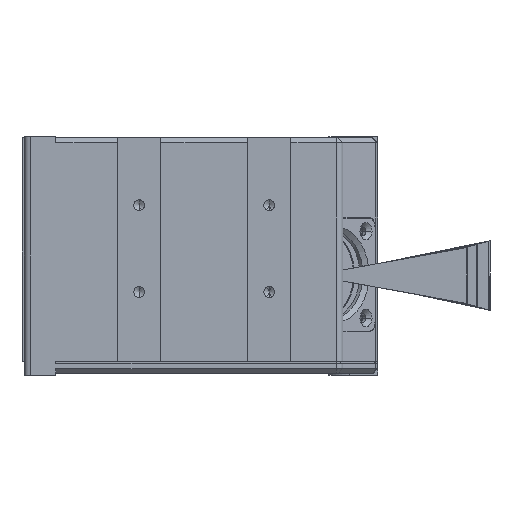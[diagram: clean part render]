
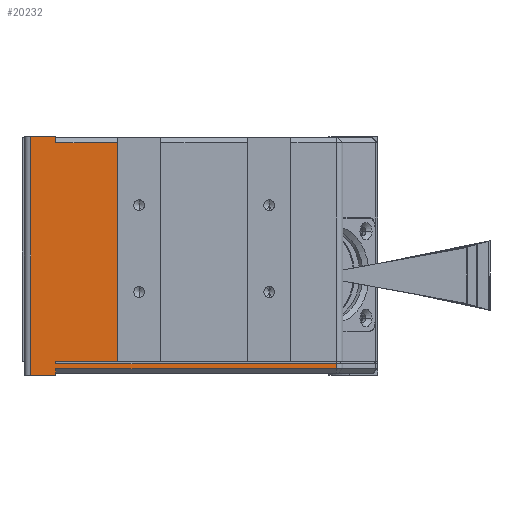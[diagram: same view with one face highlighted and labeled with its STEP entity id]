
A CAD part, left-side view. The second image highlights one B-rep face of the part: STEP entity #20232.
In plain terms, the highlighted planar face has unit normal (-1, 0, 0).
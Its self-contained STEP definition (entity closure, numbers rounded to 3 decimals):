
#26 = VERTEX_POINT ( 'NONE', #19500 ) ;
#117 = LINE ( 'NONE', #7400, #4333 ) ;
#307 = DIRECTION ( 'NONE',  ( 0., 1., 0. ) ) ;
#535 = ORIENTED_EDGE ( 'NONE', *, *, #11895, .T. ) ;
#1522 = DIRECTION ( 'NONE',  ( 0., -1., 0. ) ) ;
#1750 = FACE_OUTER_BOUND ( 'NONE', #11244, .T. ) ;
#1928 = VECTOR ( 'NONE', #8747, 1000. ) ;
#2029 = ORIENTED_EDGE ( 'NONE', *, *, #17420, .F. ) ;
#2722 = ORIENTED_EDGE ( 'NONE', *, *, #20369, .F. ) ;
#3089 = EDGE_CURVE ( 'NONE', #21305, #26122, #10974, .T. ) ;
#3321 = DIRECTION ( 'NONE',  ( 0., 1., 0. ) ) ;
#3551 = VERTEX_POINT ( 'NONE', #13375 ) ;
#3711 = ORIENTED_EDGE ( 'NONE', *, *, #21937, .F. ) ;
#4333 = VECTOR ( 'NONE', #19916, 1000. ) ;
#4411 = EDGE_CURVE ( 'NONE', #12964, #16821, #6359, .T. ) ;
#4582 = CARTESIAN_POINT ( 'NONE',  ( 0., 0., 51.8 ) ) ;
#4691 = LINE ( 'NONE', #26398, #13367 ) ;
#4738 = DIRECTION ( 'NONE',  ( 0., -1., 0. ) ) ;
#5207 = CARTESIAN_POINT ( 'NONE',  ( 0., 0., -3.2 ) ) ;
#5530 = CARTESIAN_POINT ( 'NONE',  ( 0., -7.3, 50.4 ) ) ;
#6026 = VECTOR ( 'NONE', #19273, 1000. ) ;
#6106 = CARTESIAN_POINT ( 'NONE',  ( 0., -7.3, -0.5 ) ) ;
#6277 = VECTOR ( 'NONE', #1522, 1000. ) ;
#6359 = LINE ( 'NONE', #16331, #13458 ) ;
#7064 = DIRECTION ( 'NONE',  ( 0., 0., 1. ) ) ;
#7278 = VERTEX_POINT ( 'NONE', #5530 ) ;
#7400 = CARTESIAN_POINT ( 'NONE',  ( 0., -1.5, 51.6 ) ) ;
#7749 = VECTOR ( 'NONE', #8735, 1000. ) ;
#8203 = EDGE_CURVE ( 'NONE', #26149, #3551, #117, .T. ) ;
#8456 = EDGE_CURVE ( 'NONE', #26122, #12964, #8881, .T. ) ;
#8516 = VECTOR ( 'NONE', #3321, 1000. ) ;
#8586 = EDGE_CURVE ( 'NONE', #7278, #20020, #22339, .T. ) ;
#8735 = DIRECTION ( 'NONE',  ( 0., 0., -1. ) ) ;
#8747 = DIRECTION ( 'NONE',  ( 0., 0., 1. ) ) ;
#8881 = LINE ( 'NONE', #28230, #11957 ) ;
#9171 = CARTESIAN_POINT ( 'NONE',  ( 0., 0., 51.6 ) ) ;
#9557 = ORIENTED_EDGE ( 'NONE', *, *, #8203, .T. ) ;
#9597 = LINE ( 'NONE', #26098, #6026 ) ;
#9655 = DIRECTION ( 'NONE',  ( 0., -1., 0. ) ) ;
#9674 = CARTESIAN_POINT ( 'NONE',  ( 0., -7.3, 51.8 ) ) ;
#10592 = CARTESIAN_POINT ( 'NONE',  ( 0., -7.3, 50.4 ) ) ;
#10675 = CARTESIAN_POINT ( 'NONE',  ( 0., -72., -0.5 ) ) ;
#10974 = LINE ( 'NONE', #15732, #1928 ) ;
#11244 = EDGE_LOOP ( 'NONE', ( #27717, #29866, #13541, #2029, #3711, #535, #18336, #29588, #11416, #2722, #9557, #28475 ) ) ;
#11416 = ORIENTED_EDGE ( 'NONE', *, *, #8586, .T. ) ;
#11895 = EDGE_CURVE ( 'NONE', #26864, #18259, #9597, .T. ) ;
#11957 = VECTOR ( 'NONE', #9655, 1000. ) ;
#12271 = CARTESIAN_POINT ( 'NONE',  ( 0., -21.5, 0. ) ) ;
#12964 = VERTEX_POINT ( 'NONE', #19428 ) ;
#13172 = LINE ( 'NONE', #27774, #7749 ) ;
#13367 = VECTOR ( 'NONE', #7064, 1000. ) ;
#13375 = CARTESIAN_POINT ( 'NONE',  ( 0., -1.5, -3.2 ) ) ;
#13458 = VECTOR ( 'NONE', #28546, 1000. ) ;
#13541 = ORIENTED_EDGE ( 'NONE', *, *, #4411, .T. ) ;
#13949 = CARTESIAN_POINT ( 'NONE',  ( 0., -7.3, 0. ) ) ;
#14724 = CARTESIAN_POINT ( 'NONE',  ( 0., -7.3, -21.33 ) ) ;
#14872 = EDGE_CURVE ( 'NONE', #26, #7278, #15813, .T. ) ;
#15004 = VECTOR ( 'NONE', #4738, 1000. ) ;
#15732 = CARTESIAN_POINT ( 'NONE',  ( 0., -7.3, -21.33 ) ) ;
#15813 = LINE ( 'NONE', #10592, #8516 ) ;
#16331 = CARTESIAN_POINT ( 'NONE',  ( 0., -72., 51.6 ) ) ;
#16744 = CARTESIAN_POINT ( 'NONE',  ( 0., -1.5, 51.8 ) ) ;
#16821 = VERTEX_POINT ( 'NONE', #10675 ) ;
#17417 = DIRECTION ( 'NONE',  ( 0., 0., 1. ) ) ;
#17420 = EDGE_CURVE ( 'NONE', #19049, #16821, #27677, .T. ) ;
#18259 = VERTEX_POINT ( 'NONE', #12271 ) ;
#18336 = ORIENTED_EDGE ( 'NONE', *, *, #27594, .T. ) ;
#18840 = DIRECTION ( 'NONE',  ( 0., 1., 0. ) ) ;
#19049 = VERTEX_POINT ( 'NONE', #20256 ) ;
#19273 = DIRECTION ( 'NONE',  ( 0., -1., 0. ) ) ;
#19428 = CARTESIAN_POINT ( 'NONE',  ( 0., -72., -1.7 ) ) ;
#19467 = VECTOR ( 'NONE', #307, 1000. ) ;
#19500 = CARTESIAN_POINT ( 'NONE',  ( 0., -21.5, 50.4 ) ) ;
#19629 = LINE ( 'NONE', #4582, #15004 ) ;
#19916 = DIRECTION ( 'NONE',  ( 0., 0., -1. ) ) ;
#20020 = VERTEX_POINT ( 'NONE', #9674 ) ;
#20232 = ADVANCED_FACE ( 'NONE', ( #1750 ), #20758, .F. ) ;
#20256 = CARTESIAN_POINT ( 'NONE',  ( 0., -7.3, -0.5 ) ) ;
#20369 = EDGE_CURVE ( 'NONE', #26149, #20020, #19629, .T. ) ;
#20758 = PLANE ( 'NONE',  #21594 ) ;
#21012 = CARTESIAN_POINT ( 'NONE',  ( 0., -7.3, -3.2 ) ) ;
#21072 = DIRECTION ( 'NONE',  ( 1., 0., 0. ) ) ;
#21305 = VERTEX_POINT ( 'NONE', #21012 ) ;
#21594 = AXIS2_PLACEMENT_3D ( 'NONE', #9171, #21072, #18840 ) ;
#21662 = CARTESIAN_POINT ( 'NONE',  ( 0., -7.3, -1.7 ) ) ;
#21937 = EDGE_CURVE ( 'NONE', #26864, #19049, #13172, .T. ) ;
#22165 = LINE ( 'NONE', #5207, #19467 ) ;
#22339 = LINE ( 'NONE', #14724, #24628 ) ;
#24628 = VECTOR ( 'NONE', #17417, 1000. ) ;
#24840 = EDGE_CURVE ( 'NONE', #21305, #3551, #22165, .T. ) ;
#26098 = CARTESIAN_POINT ( 'NONE',  ( 0., -7.3, 0. ) ) ;
#26122 = VERTEX_POINT ( 'NONE', #21662 ) ;
#26149 = VERTEX_POINT ( 'NONE', #16744 ) ;
#26398 = CARTESIAN_POINT ( 'NONE',  ( 0., -21.5, 51.6 ) ) ;
#26864 = VERTEX_POINT ( 'NONE', #13949 ) ;
#27594 = EDGE_CURVE ( 'NONE', #18259, #26, #4691, .T. ) ;
#27677 = LINE ( 'NONE', #6106, #6277 ) ;
#27717 = ORIENTED_EDGE ( 'NONE', *, *, #3089, .T. ) ;
#27774 = CARTESIAN_POINT ( 'NONE',  ( 0., -7.3, 0. ) ) ;
#28230 = CARTESIAN_POINT ( 'NONE',  ( 0., 0., -1.7 ) ) ;
#28475 = ORIENTED_EDGE ( 'NONE', *, *, #24840, .F. ) ;
#28546 = DIRECTION ( 'NONE',  ( 0., 0., 1. ) ) ;
#29588 = ORIENTED_EDGE ( 'NONE', *, *, #14872, .T. ) ;
#29866 = ORIENTED_EDGE ( 'NONE', *, *, #8456, .T. ) ;
